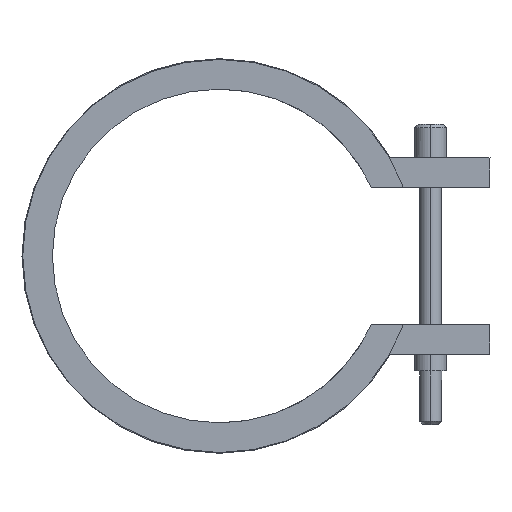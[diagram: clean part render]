
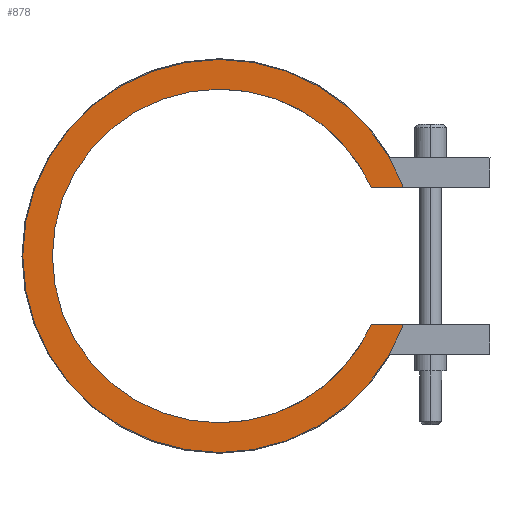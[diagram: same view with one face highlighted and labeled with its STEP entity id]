
A CAD part, left-side view. The second image highlights one B-rep face of the part: STEP entity #878.
In plain terms, the highlighted planar face has unit normal (-1, 0, 0).
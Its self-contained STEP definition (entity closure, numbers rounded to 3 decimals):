
#416=CARTESIAN_POINT('Vertex',(-17.5,-20.511,-9.25)) ;
#419=CARTESIAN_POINT('Line Origine',(-17.5,-22.672,-9.25)) ;
#423=CARTESIAN_POINT('Vertex',(-17.5,-24.833,-9.25)) ;
#469=CARTESIAN_POINT('Vertex',(-17.5,0.,-26.5)) ;
#472=CARTESIAN_POINT('Axis2P3D Location',(-17.5,0.,0.)) ;
#493=CARTESIAN_POINT('Vertex',(-17.5,0.,26.5)) ;
#496=CARTESIAN_POINT('Axis2P3D Location',(-17.5,0.,0.)) ;
#508=CARTESIAN_POINT('Axis2P3D Location',(-17.5,0.,0.)) ;
#512=CARTESIAN_POINT('Vertex',(-17.5,-24.833,9.25)) ;
#532=CARTESIAN_POINT('Line Origine',(-17.5,-22.672,9.25)) ;
#536=CARTESIAN_POINT('Vertex',(-17.5,-20.511,9.25)) ;
#824=CARTESIAN_POINT('Axis2P3D Location',(-17.5,0.,0.)) ;
#828=CARTESIAN_POINT('Vertex',(-17.5,0.,-22.5)) ;
#851=CARTESIAN_POINT('Axis2P3D Location',(-17.5,0.,0.)) ;
#856=CARTESIAN_POINT('Axis2P3D Location',(-17.5,0.,0.)) ;
#860=CARTESIAN_POINT('Vertex',(-17.5,0.,22.5)) ;
#863=CARTESIAN_POINT('Axis2P3D Location',(-17.5,0.,0.)) ;
#420=DIRECTION('Vector Direction',(0.,1.,0.)) ;
#473=DIRECTION('Axis2P3D Direction',(1.,0.,-0.)) ;
#497=DIRECTION('Axis2P3D Direction',(1.,0.,-0.)) ;
#509=DIRECTION('Axis2P3D Direction',(1.,0.,-0.)) ;
#533=DIRECTION('Vector Direction',(0.,-1.,0.)) ;
#825=DIRECTION('Axis2P3D Direction',(1.,0.,-0.)) ;
#852=DIRECTION('Axis2P3D Direction',(1.,0.,0.)) ;
#853=DIRECTION('Axis2P3D XDirection',(0.,0.,-1.)) ;
#857=DIRECTION('Axis2P3D Direction',(1.,0.,0.)) ;
#864=DIRECTION('Axis2P3D Direction',(1.,0.,0.)) ;
#474=AXIS2_PLACEMENT_3D('Circle Axis2P3D',#472,#473,$) ;
#498=AXIS2_PLACEMENT_3D('Circle Axis2P3D',#496,#497,$) ;
#510=AXIS2_PLACEMENT_3D('Circle Axis2P3D',#508,#509,$) ;
#826=AXIS2_PLACEMENT_3D('Circle Axis2P3D',#824,#825,$) ;
#854=AXIS2_PLACEMENT_3D('Plane Axis2P3D',#851,#852,#853) ;
#858=AXIS2_PLACEMENT_3D('Circle Axis2P3D',#856,#857,$) ;
#865=AXIS2_PLACEMENT_3D('Circle Axis2P3D',#863,#864,$) ;
#869=ORIENTED_EDGE('',*,*,#425,.T.) ;
#870=ORIENTED_EDGE('',*,*,#830,.T.) ;
#871=ORIENTED_EDGE('',*,*,#862,.T.) ;
#872=ORIENTED_EDGE('',*,*,#867,.T.) ;
#873=ORIENTED_EDGE('',*,*,#538,.T.) ;
#874=ORIENTED_EDGE('',*,*,#514,.F.) ;
#875=ORIENTED_EDGE('',*,*,#500,.F.) ;
#876=ORIENTED_EDGE('',*,*,#476,.F.) ;
#421=VECTOR('Line Direction',#420,1.) ;
#534=VECTOR('Line Direction',#533,1.) ;
#878=ADVANCED_FACE('14045035',(#877),#855,.F.) ;
#475=CIRCLE('generated circle',#474,26.5) ;
#499=CIRCLE('generated circle',#498,26.5) ;
#511=CIRCLE('generated circle',#510,26.5) ;
#827=CIRCLE('generated circle',#826,22.5) ;
#859=CIRCLE('generated circle',#858,22.5) ;
#866=CIRCLE('generated circle',#865,22.5) ;
#425=EDGE_CURVE('',#424,#417,#422,.T.) ;
#476=EDGE_CURVE('',#424,#470,#475,.T.) ;
#500=EDGE_CURVE('',#470,#494,#499,.T.) ;
#514=EDGE_CURVE('',#494,#513,#511,.T.) ;
#538=EDGE_CURVE('',#537,#513,#535,.T.) ;
#830=EDGE_CURVE('',#417,#829,#827,.T.) ;
#862=EDGE_CURVE('',#829,#861,#859,.T.) ;
#867=EDGE_CURVE('',#861,#537,#866,.T.) ;
#868=EDGE_LOOP('',(#869,#870,#871,#872,#873,#874,#875,#876)) ;
#877=FACE_OUTER_BOUND('',#868,.T.) ;
#422=LINE('Line',#419,#421) ;
#535=LINE('Line',#532,#534) ;
#855=PLANE('Plane',#854) ;
#417=VERTEX_POINT('',#416) ;
#424=VERTEX_POINT('',#423) ;
#470=VERTEX_POINT('',#469) ;
#494=VERTEX_POINT('',#493) ;
#513=VERTEX_POINT('',#512) ;
#537=VERTEX_POINT('',#536) ;
#829=VERTEX_POINT('',#828) ;
#861=VERTEX_POINT('',#860) ;
